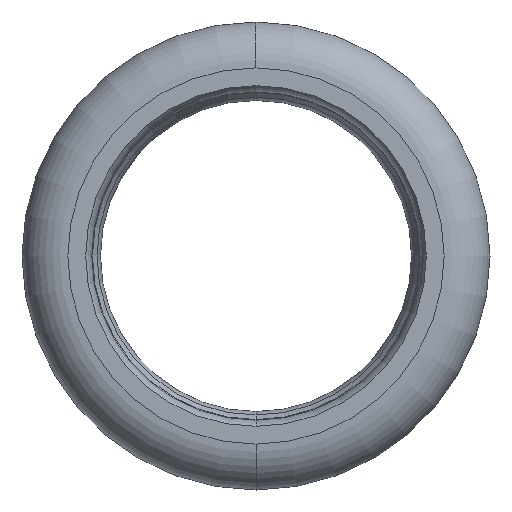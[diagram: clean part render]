
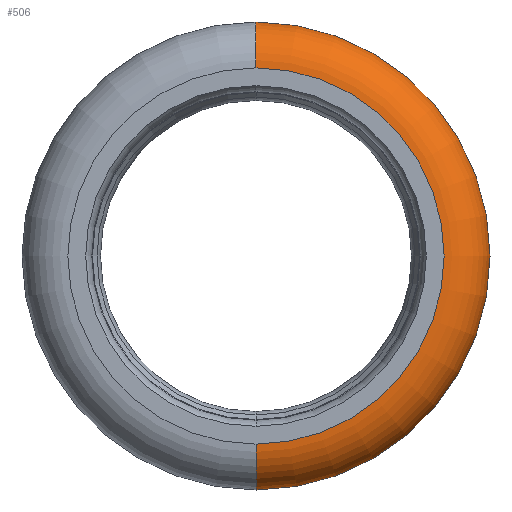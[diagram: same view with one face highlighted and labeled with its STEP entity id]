
A CAD part, left-side view. The second image highlights one B-rep face of the part: STEP entity #506.
In plain terms, the highlighted toroidal (fillet/blend) face has major radius 12.7 mm and minor radius 3.1 mm.
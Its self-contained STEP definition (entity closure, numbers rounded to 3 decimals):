
#14 = DIRECTION ( 'NONE',  ( 0., 0., 1. ) ) ;
#20 = DIRECTION ( 'NONE',  ( 0., 0., 1. ) ) ;
#36 = EDGE_CURVE ( 'NONE', #810, #1708, #1479, .T. ) ;
#58 = CARTESIAN_POINT ( 'NONE',  ( -21.9, 0., 0. ) ) ;
#101 = CARTESIAN_POINT ( 'NONE',  ( -25., 0., 12.7 ) ) ;
#107 = EDGE_CURVE ( 'NONE', #481, #1940, #1302, .T. ) ;
#325 = CARTESIAN_POINT ( 'NONE',  ( -21.9, 0., 12.7 ) ) ;
#465 = DIRECTION ( 'NONE',  ( 0., 1., 0. ) ) ;
#481 = VERTEX_POINT ( 'NONE', #1894 ) ;
#494 = AXIS2_PLACEMENT_3D ( 'NONE', #904, #1064, #1296 ) ;
#497 = CARTESIAN_POINT ( 'NONE',  ( -21.9, 0., -12.7 ) ) ;
#506 = ADVANCED_FACE ( 'NONE', ( #1422 ), #1205, .T. ) ;
#535 = AXIS2_PLACEMENT_3D ( 'NONE', #1862, #1856, #20 ) ;
#670 = AXIS2_PLACEMENT_3D ( 'NONE', #58, #1303, #1625 ) ;
#673 = ORIENTED_EDGE ( 'NONE', *, *, #999, .T. ) ;
#731 = EDGE_CURVE ( 'NONE', #1708, #1940, #1336, .T. ) ;
#805 = CARTESIAN_POINT ( 'NONE',  ( -19.991, 0., -15.143 ) ) ;
#810 = VERTEX_POINT ( 'NONE', #101 ) ;
#904 = CARTESIAN_POINT ( 'NONE',  ( -19.991, 0., 0. ) ) ;
#917 = CIRCLE ( 'NONE', #535, 12.7 ) ;
#999 = EDGE_CURVE ( 'NONE', #810, #481, #917, .T. ) ;
#1050 = AXIS2_PLACEMENT_3D ( 'NONE', #325, #465, #14 ) ;
#1064 = DIRECTION ( 'NONE',  ( 1., 0., 0. ) ) ;
#1120 = DIRECTION ( 'NONE',  ( 0., 0., -1. ) ) ;
#1137 = DIRECTION ( 'NONE',  ( 0., -1., 0. ) ) ;
#1205 = TOROIDAL_SURFACE ( 'NONE', #670, 12.7, 3.1 ) ;
#1296 = DIRECTION ( 'NONE',  ( 0., 0., 1. ) ) ;
#1302 = CIRCLE ( 'NONE', #1810, 3.1 ) ;
#1303 = DIRECTION ( 'NONE',  ( 1., 0., 0. ) ) ;
#1336 = CIRCLE ( 'NONE', #494, 15.143 ) ;
#1340 = CARTESIAN_POINT ( 'NONE',  ( -19.991, 0., 15.143 ) ) ;
#1422 = FACE_OUTER_BOUND ( 'NONE', #1572, .T. ) ;
#1448 = ORIENTED_EDGE ( 'NONE', *, *, #107, .T. ) ;
#1479 = CIRCLE ( 'NONE', #1050, 3.1 ) ;
#1572 = EDGE_LOOP ( 'NONE', ( #673, #1448, #1948, #1907 ) ) ;
#1625 = DIRECTION ( 'NONE',  ( 0., 0., 1. ) ) ;
#1708 = VERTEX_POINT ( 'NONE', #1340 ) ;
#1810 = AXIS2_PLACEMENT_3D ( 'NONE', #497, #1137, #1120 ) ;
#1856 = DIRECTION ( 'NONE',  ( 1., 0., 0. ) ) ;
#1862 = CARTESIAN_POINT ( 'NONE',  ( -25., 0., 0. ) ) ;
#1894 = CARTESIAN_POINT ( 'NONE',  ( -25., 0., -12.7 ) ) ;
#1907 = ORIENTED_EDGE ( 'NONE', *, *, #36, .F. ) ;
#1940 = VERTEX_POINT ( 'NONE', #805 ) ;
#1948 = ORIENTED_EDGE ( 'NONE', *, *, #731, .F. ) ;
